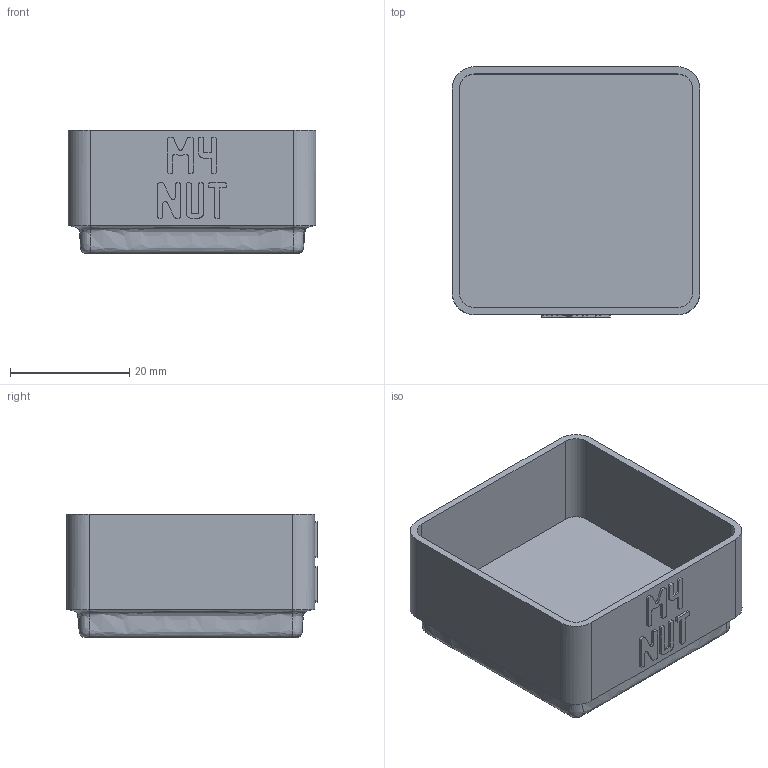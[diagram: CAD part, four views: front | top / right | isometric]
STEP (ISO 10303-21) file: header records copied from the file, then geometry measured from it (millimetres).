
FILE_DESCRIPTION(('Open CASCADE Model'),'2;1');
FILE_NAME('Open CASCADE Shape Model','2026-11-03T15:27:43',('Author'),( 'Open CASCADE'),'Open CASCADE STEP processor 8.0','build123d', 'Unknown');
FILE_SCHEMA(('AUTOMOTIVE_DESIGN { 1 0 10303 214 1 1 1 1 }'));
Length unit declared in the file: millimetre
Products named in the file (1): COMPOUND
Bounding box: 41.5 x 41.9 x 20.75 mm (x, y, z)
Volume: 9649.1 mm3; surface area: 8985 mm2
Topology: 1 solids, 1 shells, 446 faces, 1306 edges, 868 vertices
Faces by surface type: plane 430, bspline 8, cylinder 8
Entity records: 31066 total; most frequent: CARTESIAN_POINT 6649, DIRECTION 3924, LINE 3018, VECTOR 3018, ORIENTED_EDGE 2612, PCURVE 2612, DEFINITIONAL_REPRESENTATION 2612, EDGE_CURVE 1306
